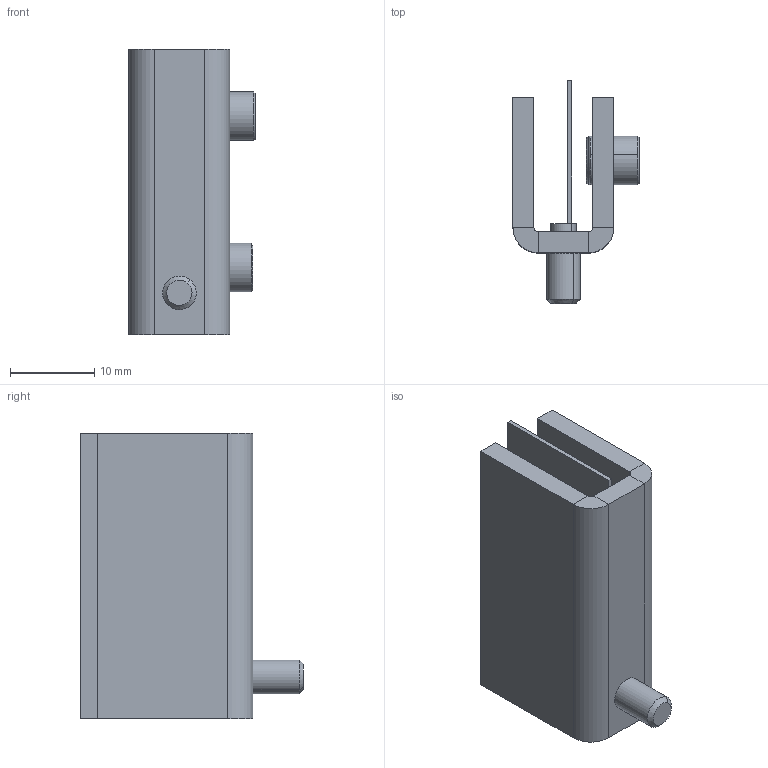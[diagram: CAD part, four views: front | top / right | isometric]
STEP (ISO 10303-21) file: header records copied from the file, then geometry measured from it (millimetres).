
FILE_DESCRIPTION (( 'STEP AP214' ), '1' );
FILE_NAME ('3.ST24-34.002.STEP', '2010-03-02T19:17:00', ( 'Techniczny' ), ( 'RST Roztocze' ), 'SwSTEP 2.0', 'SolidWorks 2010', '' );
FILE_SCHEMA (( 'AUTOMOTIVE_DESIGN' ));
Length unit declared in the file: millimetre
Products named in the file (5): 3.ST24-34.002.03; 3.ST24-34.002.01; Imbus; 3.ST24-34.002; 3.ST24-34.002.02
Assembly tree (5 placements, depth 2):
  3.ST24-34.002
    Imbus  x2
    3.ST24-34.002.02
    3.ST24-34.002.03
    3.ST24-34.002.01
Bounding box: 14.99 x 26.5 x 34 mm (x, y, z)
Volume: 4139.6 mm3; surface area: 4998.9 mm2
Topology: 5 solids, 5 shells, 91 faces, 194 edges, 112 vertices
Faces by surface type: plane 55, cylinder 20, cone 16
Entity records: 2064 total; most frequent: DIRECTION 346, CARTESIAN_POINT 306, ORIENTED_EDGE 288, EDGE_CURVE 144, AXIS2_PLACEMENT_3D 125, LINE 96, VECTOR 96, VERTEX_POINT 85
